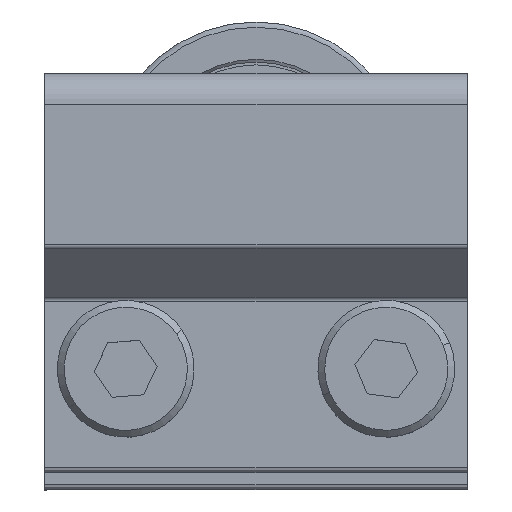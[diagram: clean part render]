
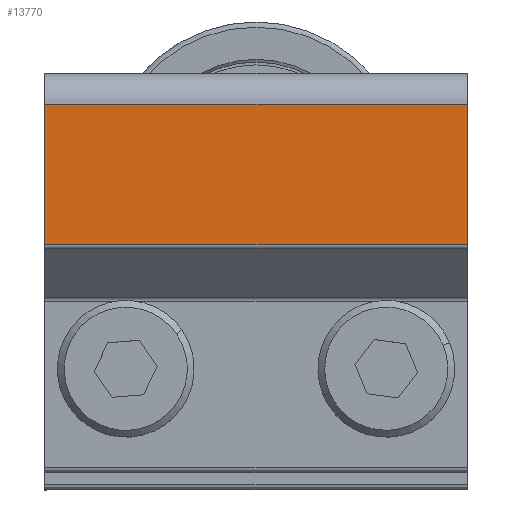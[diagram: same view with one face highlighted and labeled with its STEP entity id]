
A CAD part, top view. The second image highlights one B-rep face of the part: STEP entity #13770.
In plain terms, the highlighted planar face has unit normal (0, 0, 1) as drawn and (1, 0, 0) by its records, which use the part's own axes.
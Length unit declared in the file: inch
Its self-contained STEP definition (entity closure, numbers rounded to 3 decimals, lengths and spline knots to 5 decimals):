
#13264=DIRECTION('',(0.,0.,1.));
#13265=VECTOR('',#13264,1.216);
#13266=CARTESIAN_POINT('',(0.375,0.35921,-0.608));
#13267=LINE('',#13266,#13265);
#13268=DIRECTION('',(0.,-1.,0.));
#13269=VECTOR('',#13268,0.40379);
#13270=CARTESIAN_POINT('',(0.375,0.763,-0.608));
#13271=LINE('',#13270,#13269);
#13349=DIRECTION('',(0.,-1.,0.));
#13350=VECTOR('',#13349,0.40379);
#13351=CARTESIAN_POINT('',(0.375,0.763,0.608));
#13352=LINE('',#13351,#13350);
#13353=DIRECTION('',(0.,0.,-1.));
#13354=VECTOR('',#13353,1.216);
#13355=CARTESIAN_POINT('',(0.375,0.763,0.608));
#13356=LINE('',#13355,#13354);
#13563=CARTESIAN_POINT('',(0.375,0.763,0.608));
#13565=VERTEX_POINT('',#13563);
#13587=CARTESIAN_POINT('',(0.375,0.35921,0.608));
#13588=VERTEX_POINT('',#13587);
#13601=CARTESIAN_POINT('',(0.375,0.763,-0.608));
#13602=CARTESIAN_POINT('',(0.375,0.35921,-0.608));
#13603=VERTEX_POINT('',#13601);
#13604=VERTEX_POINT('',#13602);
#13758=CARTESIAN_POINT('',(0.375,0.763,0.608));
#13759=DIRECTION('',(-1.,0.,0.));
#13760=DIRECTION('',(0.,-1.,0.));
#13761=AXIS2_PLACEMENT_3D('',#13758,#13759,#13760);
#13762=PLANE('',#13761);
#13763=ORIENTED_EDGE('',*,*,#13675,.F.);
#13765=ORIENTED_EDGE('',*,*,#13764,.T.);
#13766=ORIENTED_EDGE('',*,*,#13716,.T.);
#13767=ORIENTED_EDGE('',*,*,#13706,.T.);
#13768=EDGE_LOOP('',(#13763,#13765,#13766,#13767));
#13769=FACE_OUTER_BOUND('',#13768,.F.);
#13675=EDGE_CURVE('',#13565,#13588,#13352,.T.);
#13706=EDGE_CURVE('',#13604,#13588,#13267,.T.);
#13716=EDGE_CURVE('',#13603,#13604,#13271,.T.);
#13764=EDGE_CURVE('',#13565,#13603,#13356,.T.);
#13770=ADVANCED_FACE('',(#13769),#13762,.F.);
